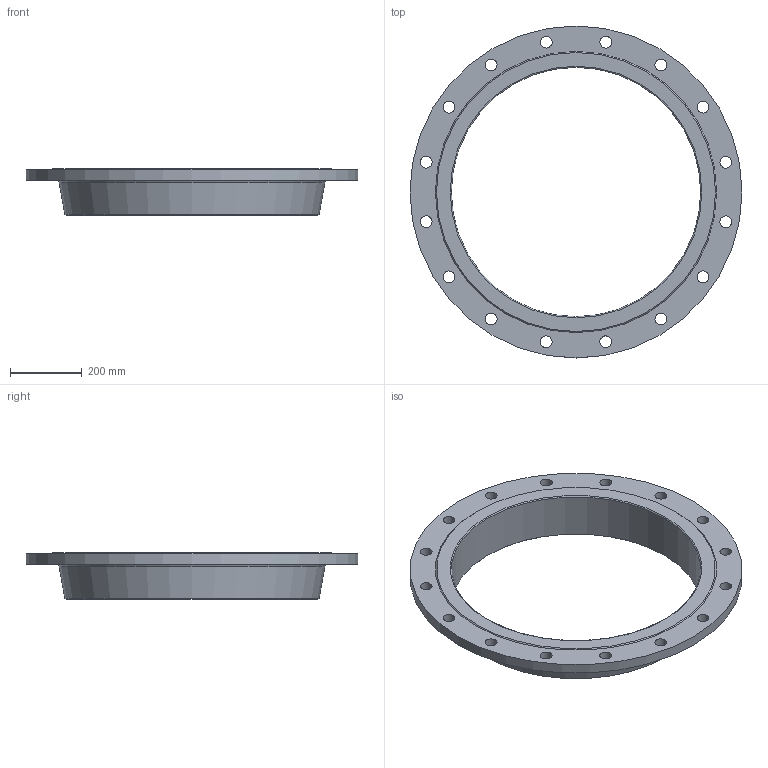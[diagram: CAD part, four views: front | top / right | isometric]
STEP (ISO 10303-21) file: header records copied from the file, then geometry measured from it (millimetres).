
FILE_DESCRIPTION(/* description */ (''),/* implementation_level */ '2;1');
FILE_NAME(/* name */ 'C:\Users\D\Documents\Inventor\HP\JIS\フランジ\水道用フランジF12\RF\ffws_rf_700_1.stp',/* time_stamp */ '2024-08-28T10:15:12+09:00',/* author */ ('D'),/* organization */ (''),/* preprocessor_version */ 'ST-DEVELOPER v18',/* originating_system */ 'Autodesk Inventor 2020',/* authorisation */ '');
FILE_SCHEMA (('AUTOMOTIVE_DESIGN { 1 0 10303 214 3 1 1 }'));
Length unit declared in the file: millimetre
Products named in the file (1): ffws_rf_80
Bounding box: 928 x 928 x 130 mm (x, y, z)
Volume: 11801328.8 mm3; surface area: 1159129.3 mm2
Topology: 1 solids, 1 shells, 27 faces, 90 edges, 67 vertices
Faces by surface type: cylinder 18, plane 4, cone 3, torus 2
Full cylindrical faces by diameter (mm): 33 x16, 697.2 x1, 928 x1
Entity records: 1170 total; most frequent: DIRECTION 215, CARTESIAN_POINT 185, ORIENTED_EDGE 180, AXIS2_PLACEMENT_3D 97, EDGE_CURVE 90, CIRCLE 69, VERTEX_POINT 67, EDGE_LOOP 63
